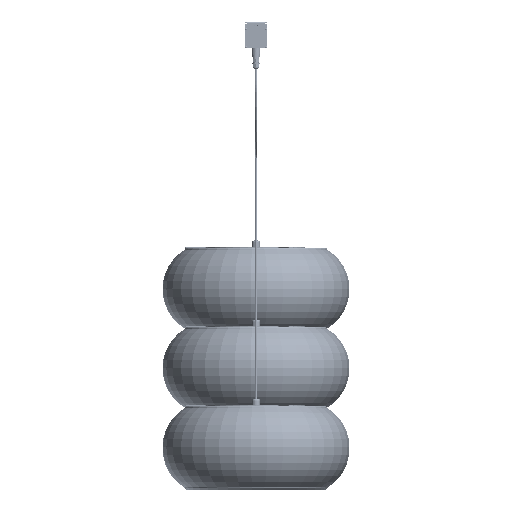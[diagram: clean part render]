
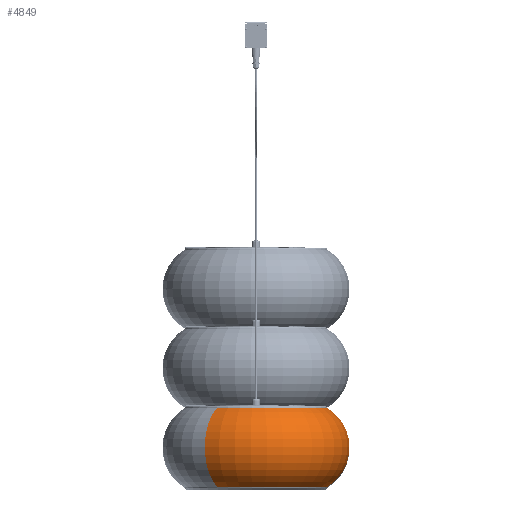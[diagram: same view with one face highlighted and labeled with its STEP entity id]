
A CAD part, top view. The second image highlights one B-rep face of the part: STEP entity #4849.
In plain terms, the highlighted toroidal (fillet/blend) face has major radius 120.056 mm and minor radius 115.565 mm.
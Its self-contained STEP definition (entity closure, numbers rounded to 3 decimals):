
#4849 = ADVANCED_FACE ( 'NONE', ( #145656 ), #89570, .T. ) ;
#8221 = CIRCLE ( 'NONE', #147278, 115.565 ) ;
#8228 = DIRECTION ( 'NONE',  ( 1., 0., 0. ) ) ;
#12174 = AXIS2_PLACEMENT_3D ( 'NONE', #71955, #58584, #134777 ) ;
#17258 = ORIENTED_EDGE ( 'NONE', *, *, #39613, .T. ) ;
#17324 = AXIS2_PLACEMENT_3D ( 'NONE', #133110, #56925, #107999 ) ;
#24228 = DIRECTION ( 'NONE',  ( 0., 0., 1. ) ) ;
#25582 = CIRCLE ( 'NONE', #12174, 179.638 ) ;
#34237 = EDGE_CURVE ( 'NONE', #99529, #52710, #8221, .T. ) ;
#35167 = CARTESIAN_POINT ( 'NONE',  ( 0., 98.5, -120.056 ) ) ;
#39613 = EDGE_CURVE ( 'NONE', #117890, #99529, #25582, .T. ) ;
#42035 = CARTESIAN_POINT ( 'NONE',  ( 0., -0.704, 179.333 ) ) ;
#50078 = CARTESIAN_POINT ( 'NONE',  ( 0., 197.521, -179.638 ) ) ;
#52710 = VERTEX_POINT ( 'NONE', #42035 ) ;
#54382 = EDGE_CURVE ( 'NONE', #117890, #82687, #143187, .T. ) ;
#56925 = DIRECTION ( 'NONE',  ( 0., -1., 0. ) ) ;
#58584 = DIRECTION ( 'NONE',  ( 0., -1., 0. ) ) ;
#66051 = DIRECTION ( 'NONE',  ( 0., 0., -1. ) ) ;
#67053 = ORIENTED_EDGE ( 'NONE', *, *, #98209, .F. ) ;
#71955 = CARTESIAN_POINT ( 'NONE',  ( 0., 197.521, 0. ) ) ;
#80980 = ORIENTED_EDGE ( 'NONE', *, *, #54382, .F. ) ;
#82687 = VERTEX_POINT ( 'NONE', #127881 ) ;
#89570 = TOROIDAL_SURFACE ( 'NONE', #17324, 120.056, 115.565 ) ;
#97101 = CARTESIAN_POINT ( 'NONE',  ( 0., 98.5, 120.056 ) ) ;
#98209 = EDGE_CURVE ( 'NONE', #82687, #52710, #121313, .T. ) ;
#99529 = VERTEX_POINT ( 'NONE', #131182 ) ;
#101830 = EDGE_LOOP ( 'NONE', ( #17258, #125499, #67053, #80980 ) ) ;
#105281 = AXIS2_PLACEMENT_3D ( 'NONE', #105430, #140627, #66051 ) ;
#105430 = CARTESIAN_POINT ( 'NONE',  ( 0., -0.704, 0. ) ) ;
#107999 = DIRECTION ( 'NONE',  ( 0., 0., -1. ) ) ;
#116444 = AXIS2_PLACEMENT_3D ( 'NONE', #35167, #164170, #24228 ) ;
#117890 = VERTEX_POINT ( 'NONE', #50078 ) ;
#121313 = CIRCLE ( 'NONE', #105281, 179.333 ) ;
#125499 = ORIENTED_EDGE ( 'NONE', *, *, #34237, .T. ) ;
#127881 = CARTESIAN_POINT ( 'NONE',  ( 0., -0.704, -179.333 ) ) ;
#131182 = CARTESIAN_POINT ( 'NONE',  ( 0., 197.521, 179.638 ) ) ;
#133110 = CARTESIAN_POINT ( 'NONE',  ( 0., 98.5, 0. ) ) ;
#134777 = DIRECTION ( 'NONE',  ( 0., 0., -1. ) ) ;
#140627 = DIRECTION ( 'NONE',  ( 0., -1., 0. ) ) ;
#143187 = CIRCLE ( 'NONE', #116444, 115.565 ) ;
#145656 = FACE_OUTER_BOUND ( 'NONE', #101830, .T. ) ;
#147278 = AXIS2_PLACEMENT_3D ( 'NONE', #97101, #8228, #148124 ) ;
#148124 = DIRECTION ( 'NONE',  ( 0., 0., -1. ) ) ;
#164170 = DIRECTION ( 'NONE',  ( -1., 0., 0. ) ) ;
